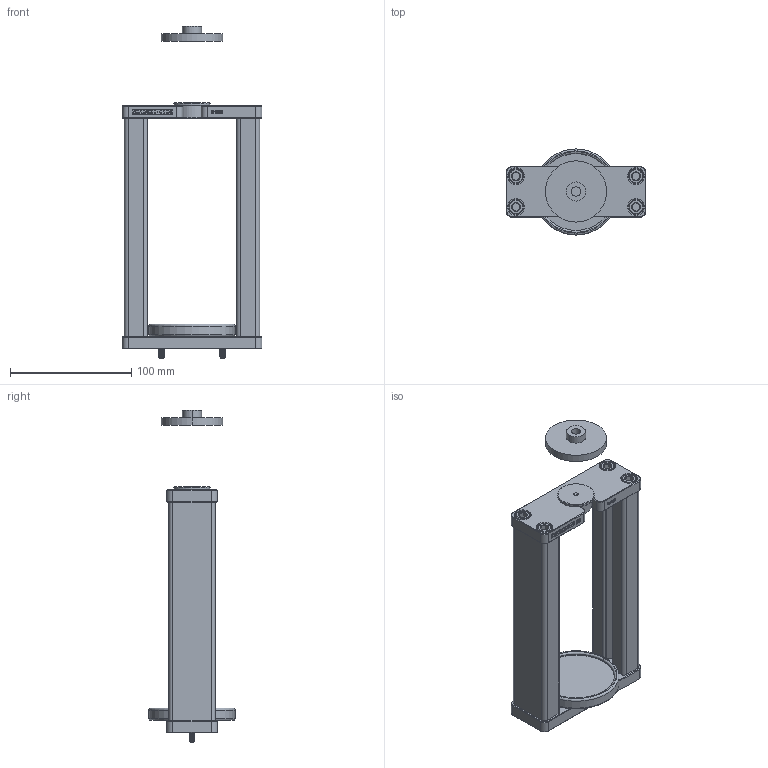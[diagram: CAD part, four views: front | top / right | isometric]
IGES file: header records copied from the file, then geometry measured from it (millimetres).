
Global section: file name: No Iges File Name specified; native system: Autodesk Inventor 2010; preprocessor: AutoDesk Inventor Iges Exporter R2010; author: mlampen; date: 20170420.122616; units: inch
Bounding box: 115.57 x 71.12 x 274.32 mm (x, y, z)
Volume: 341334.2 mm3; surface area: 101812.7 mm2
Topology: 8 solids, 8 shells, 1043 faces, 2664 edges, 1700 vertices
Faces by surface type: plane 613, cylinder 199, revolution 132, cone 78, bspline 11, torus 10
